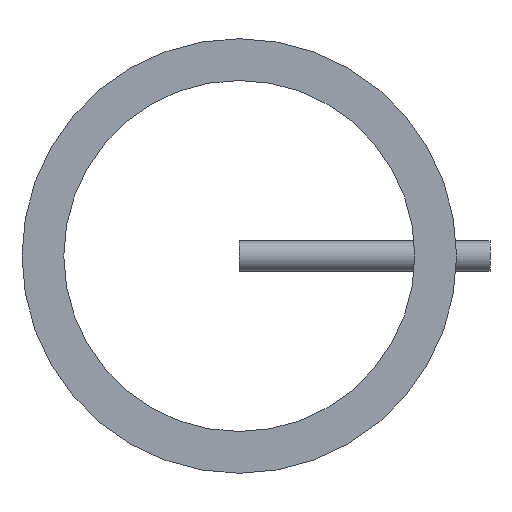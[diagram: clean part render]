
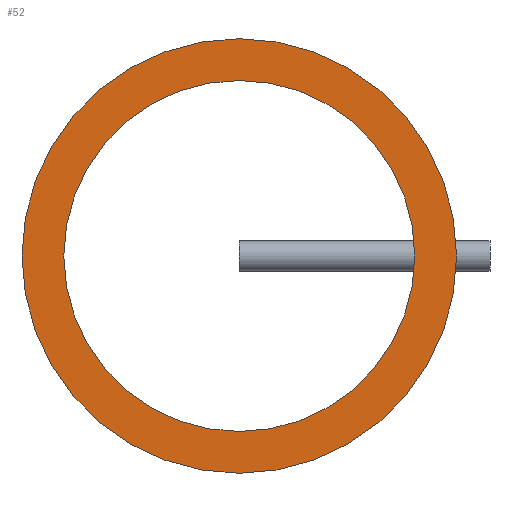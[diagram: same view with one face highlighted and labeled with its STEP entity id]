
A CAD part, front view. The second image highlights one B-rep face of the part: STEP entity #52.
In plain terms, the highlighted planar face has unit normal (0, -1, 0).
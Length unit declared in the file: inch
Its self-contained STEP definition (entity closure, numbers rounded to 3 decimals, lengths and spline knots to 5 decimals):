
#2 = VERTEX_POINT ( 'NONE', #42 ) ;
#4 = PLANE ( 'NONE',  #210 ) ;
#6 = AXIS2_PLACEMENT_3D ( 'NONE', #156, #131, #294 ) ;
#17 = DIRECTION ( 'NONE',  ( 0., 0., 1. ) ) ;
#19 = CARTESIAN_POINT ( 'NONE',  ( 0., -137.79528, -413.38583 ) ) ;
#33 = DIRECTION ( 'NONE',  ( 0., 0., 1. ) ) ;
#34 = ORIENTED_EDGE ( 'NONE', *, *, #126, .T. ) ;
#42 = CARTESIAN_POINT ( 'NONE',  ( 0., -137.79528, -511.81102 ) ) ;
#45 = CIRCLE ( 'NONE', #105, 413.38583 ) ;
#48 = DIRECTION ( 'NONE',  ( 0., 1., 0. ) ) ;
#49 = CARTESIAN_POINT ( 'NONE',  ( 0., -137.79528, 0. ) ) ;
#52 = ADVANCED_FACE ( 'NONE', ( #106, #322 ), #4, .F. ) ;
#86 = ORIENTED_EDGE ( 'NONE', *, *, #154, .F. ) ;
#94 = DIRECTION ( 'NONE',  ( 0., 1., 0. ) ) ;
#97 = DIRECTION ( 'NONE',  ( 0., 0., 1. ) ) ;
#98 = AXIS2_PLACEMENT_3D ( 'NONE', #49, #232, #340 ) ;
#101 = CARTESIAN_POINT ( 'NONE',  ( 0., -137.79528, 0. ) ) ;
#105 = AXIS2_PLACEMENT_3D ( 'NONE', #317, #48, #97 ) ;
#106 = FACE_BOUND ( 'NONE', #118, .T. ) ;
#111 = CIRCLE ( 'NONE', #168, 511.81102 ) ;
#118 = EDGE_LOOP ( 'NONE', ( #34, #248 ) ) ;
#126 = EDGE_CURVE ( 'NONE', #161, #203, #45, .T. ) ;
#131 = DIRECTION ( 'NONE',  ( 0., 1., 0. ) ) ;
#154 = EDGE_CURVE ( 'NONE', #182, #2, #111, .T. ) ;
#156 = CARTESIAN_POINT ( 'NONE',  ( 0., -137.79528, 0. ) ) ;
#161 = VERTEX_POINT ( 'NONE', #315 ) ;
#168 = AXIS2_PLACEMENT_3D ( 'NONE', #190, #94, #17 ) ;
#182 = VERTEX_POINT ( 'NONE', #338 ) ;
#190 = CARTESIAN_POINT ( 'NONE',  ( 0., -137.79528, 0. ) ) ;
#203 = VERTEX_POINT ( 'NONE', #19 ) ;
#204 = EDGE_CURVE ( 'NONE', #2, #182, #243, .T. ) ;
#210 = AXIS2_PLACEMENT_3D ( 'NONE', #101, #214, #33 ) ;
#214 = DIRECTION ( 'NONE',  ( 0., 1., 0. ) ) ;
#215 = EDGE_CURVE ( 'NONE', #203, #161, #325, .T. ) ;
#232 = DIRECTION ( 'NONE',  ( 0., 1., 0. ) ) ;
#243 = CIRCLE ( 'NONE', #6, 511.81102 ) ;
#248 = ORIENTED_EDGE ( 'NONE', *, *, #215, .T. ) ;
#274 = EDGE_LOOP ( 'NONE', ( #86, #279 ) ) ;
#279 = ORIENTED_EDGE ( 'NONE', *, *, #204, .F. ) ;
#294 = DIRECTION ( 'NONE',  ( 0., 0., 1. ) ) ;
#315 = CARTESIAN_POINT ( 'NONE',  ( 0., -137.79528, 413.38583 ) ) ;
#317 = CARTESIAN_POINT ( 'NONE',  ( 0., -137.79528, 0. ) ) ;
#322 = FACE_OUTER_BOUND ( 'NONE', #274, .T. ) ;
#325 = CIRCLE ( 'NONE', #98, 413.38583 ) ;
#338 = CARTESIAN_POINT ( 'NONE',  ( 0., -137.79528, 511.81102 ) ) ;
#340 = DIRECTION ( 'NONE',  ( 0., 0., 1. ) ) ;
